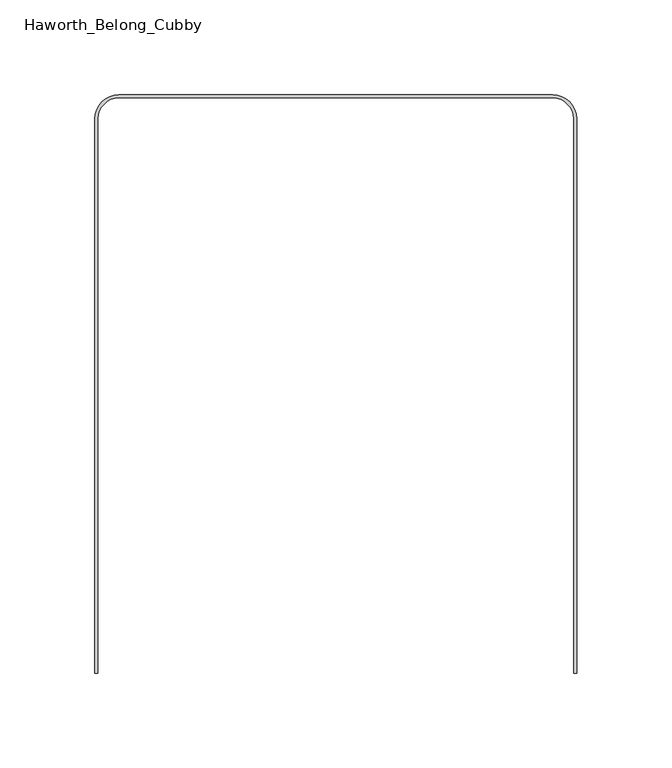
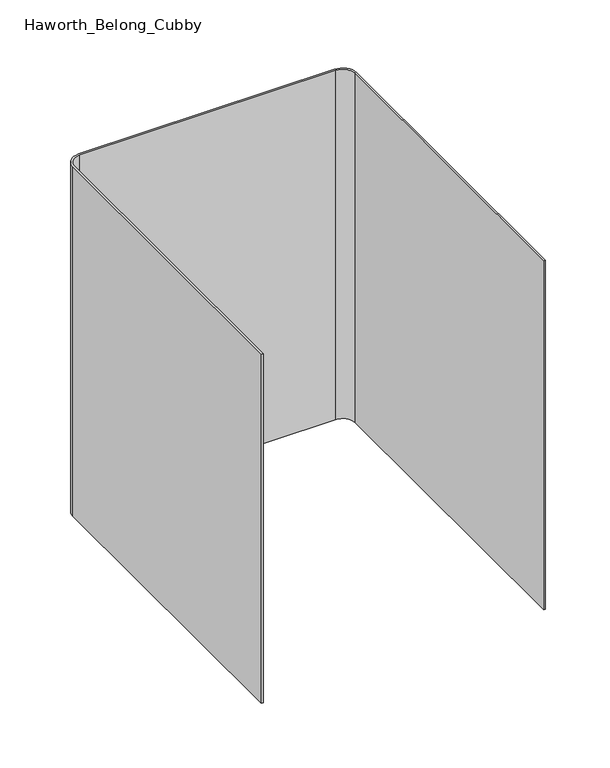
"""IFC4 building model written with IfcOpenShell, lengths in millimetres: furniture geometry, Haworth_Belong_Cubby : 13h - No Slots."""

from ifc_helpers import new_model, si_unit, point, frame, frame_2d, origin, place, context, project, spatial, polyline, circle_curve, trimmed, segment, composite_curve, outline, extrude, source, transform, mapped, element, save


def haworth_belong_cubby_69a2f568(model_context):
    return source(origin(), model_context, "Body", "SweptSolid", [
        extrude(outline(composite_curve([segment(polyline([(-127.0, -304.00625), (-127.0, -11.90625)]), True, "CONTINUOUS"), segment(trimmed(circle_curve(frame_2d((-114.3, -11.90625)), 12.7), [point((-127.0, -11.90625))], [point((-114.3, 0.79375))], False, "CARTESIAN"), True, "CONTINUOUS"), segment(polyline([(-114.3, 0.79375), (114.3, 0.79375)]), True, "CONTINUOUS"), segment(trimmed(circle_curve(frame_2d((114.3, -11.90625)), 12.7), [point((114.3, 0.79375))], [point((127.0, -11.90625))], False, "CARTESIAN"), True, "CONTINUOUS"), segment(polyline([(127.0, -11.90625), (127.0, -304.00625), (125.4125, -304.00625), (125.4125, -11.90625)]), True, "CONTINUOUS"), segment(trimmed(circle_curve(frame_2d((114.3, -11.90625)), 11.1125), [point((125.4125, -11.90625))], [point((114.3, -0.79375))], True, "CARTESIAN"), True, "CONTINUOUS"), segment(polyline([(114.3, -0.79375), (-114.3, -0.79375)]), True, "CONTINUOUS"), segment(trimmed(circle_curve(frame_2d((-114.3, -11.90625)), 11.1125), [point((-114.3, -0.79375))], [point((-125.4125, -11.90625))], True, "CARTESIAN"), True, "CONTINUOUS"), segment(polyline([(-125.4125, -11.90625), (-125.4125, -304.00625), (-127.0, -304.00625)]), True, "CONTINUOUS")], self_intersect=False)), frame((0.0, 0.0, 762.0), z_axis=(0.0, 0.0, 1.0), x_axis=(1.0, 0.0, 0.0)), (0.0, 0.0, 1.0), 330.2),
    ])


if __name__ == "__main__":
    model = new_model("IFC4")
    model_context = context("Model", 3, world=origin())
    ifc_project = project(units=[si_unit("LENGTHUNIT", "METRE", prefix="MILLI")], contexts=[model_context])
    site = spatial("IfcSite", under=ifc_project)
    building = spatial("IfcBuilding", under=site)
    placement = place(None, origin())
    haworth_belong_cubby_shape = haworth_belong_cubby_69a2f568(model_context)
    element("IfcFurniture", 1, ObjectType="Haworth_Belong_Cubby : 13h - No Slots", at=placement, inside=building, context=model_context, shape_type="MappedRepresentation", body=[
        mapped(haworth_belong_cubby_shape, transform((0.0, 0.0, 0.0), x_axis=(1.0, 0.0, 0.0), y_axis=(0.0, 1.0, 0.0), z_axis=(0.0, 0.0, 1.0))),
    ])
    save(model, "model.ifc")
